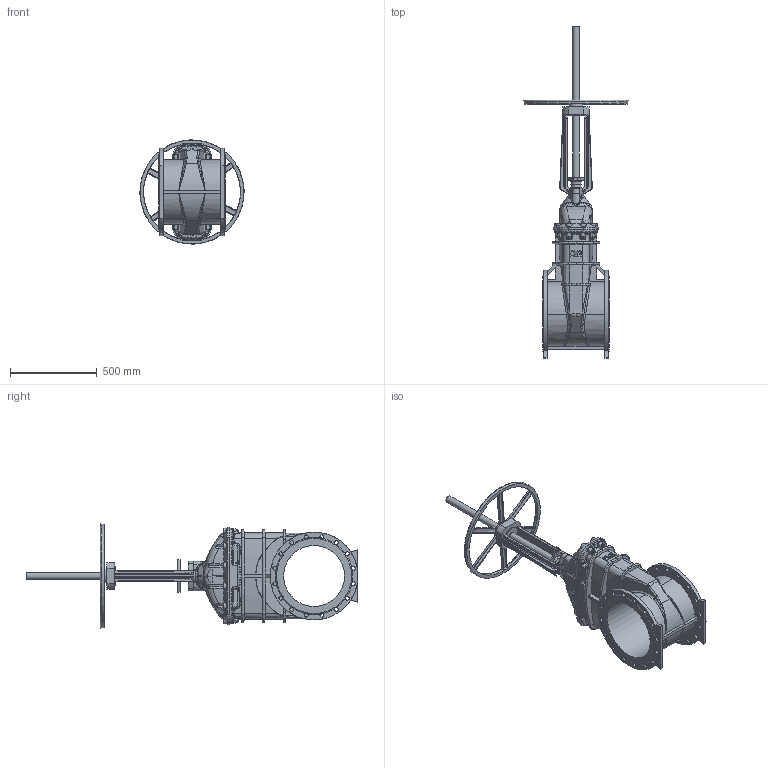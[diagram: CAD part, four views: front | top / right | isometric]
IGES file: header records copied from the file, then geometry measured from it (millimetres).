
Start section: SolidWorks IGES file using analytic representation for surfaces
Global section: file name: \\avksan2\techshare\PBM outline export from Enovia\O_21_34_DN350_40XXXXX open_AA0.igs; native system: SolidWorks 2012; preprocessor: SolidWorks 2012; author: pbm; date: 200212.104508; units: millimetre
Bounding box: 598.98 x 1910.5 x 598.98 mm (x, y, z)
Surface area: 2933116.3 mm2 (no closed solid volume)
Topology: 0 solids, 0 shells, 1044 faces, 5743 edges, 5677 vertices
Faces by surface type: bspline 566, revolution 478
